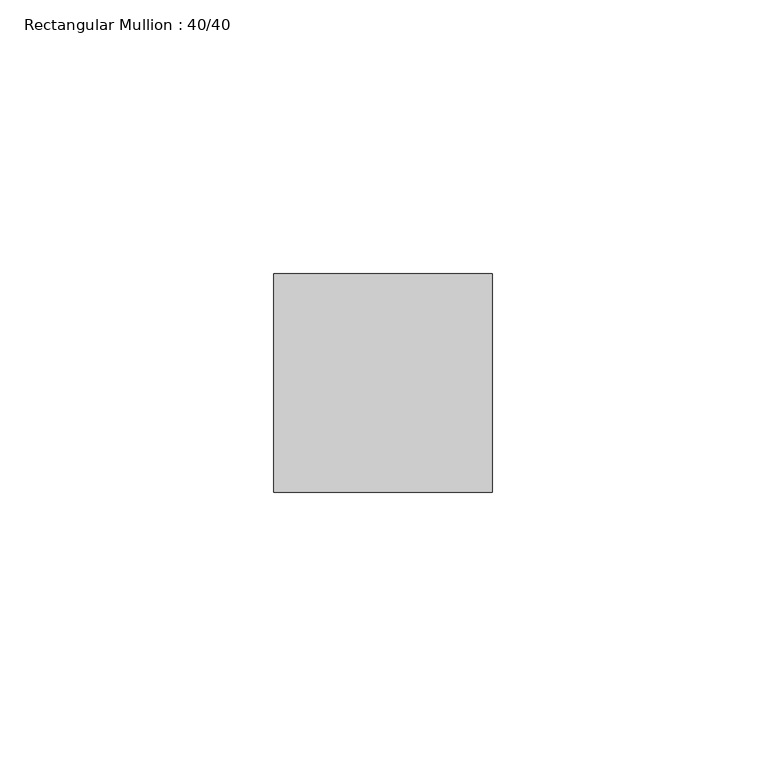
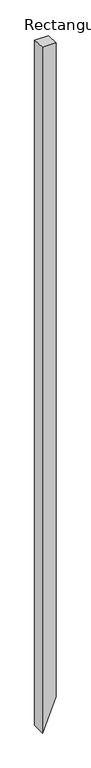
"""IFC4 building model written with IfcOpenShell, lengths in millimetres: member geometry, Rectangular Mullion : 40/40."""

from ifc_helpers import new_model, si_unit, origin, place, context, project, spatial, faceted_brep, source, transform, mapped, element, save


def rectangular_mullion_40_40_e7126e77(model_context):
    return source(origin(), model_context, "Body", "Brep", [
        faceted_brep([(-20.0, 20.0, -1.3985362), (20.0, 20.0, -1.3985362), (20.0, 20.0, -2023.6016951), (-20.0, 20.0, -2122.9057265), (-20.0, -20.0, 1.3985362), (-20.0, -20.0, -2122.9057265), (20.0, -20.0, 1.3985362), (20.0, -20.0, -2023.6016951)], [[[0, 1, 2, 3]], [[4, 0, 3, 5]], [[6, 4, 5, 7]], [[1, 6, 7, 2]], [[1, 0, 4, 6]], [[2, 7, 5, 3]]]),
    ])


if __name__ == "__main__":
    model = new_model("IFC4")
    model_context = context("Model", 3, world=origin())
    ifc_project = project(units=[si_unit("LENGTHUNIT", "METRE", prefix="MILLI")], contexts=[model_context])
    site = spatial("IfcSite", under=ifc_project)
    building = spatial("IfcBuilding", under=site)
    placement = place(None, origin())
    rectangular_mullion_40_40_shape = rectangular_mullion_40_40_e7126e77(model_context)
    element("IfcMember", 1, ObjectType="Rectangular Mullion : 40/40", at=placement, inside=building, context=model_context, shape_type="MappedRepresentation", body=[
        mapped(rectangular_mullion_40_40_shape, transform((0.0, 0.0, 0.0), x_axis=(1.0, 0.0, 0.0), y_axis=(0.0, 1.0, 0.0), z_axis=(0.0, 0.0, 1.0))),
    ])
    save(model, "model.ifc")
